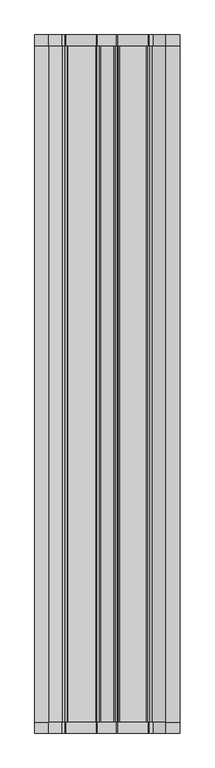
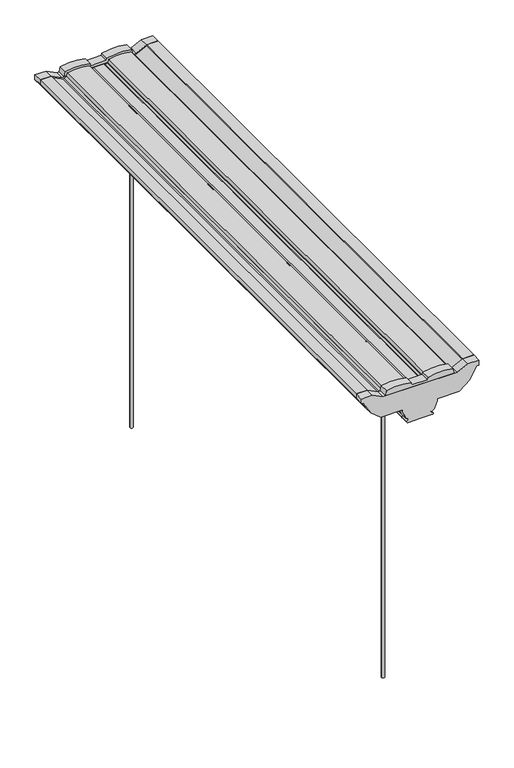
"""IFC4 building model written with IfcOpenShell, lengths in millimetres: light fixture geometry, OD74 (E) MSL : E - MSL 4000LM  35K 80CRI."""

import ifcopenshell
import ifcopenshell.guid

model = None  # the IFC model being written
_history = None  # IfcOwnerHistory: only IFC2X3 demands one
_inside = {}  # id of a spatial element -> (the spatial element, [elements in it])
_under = {}  # id of a project, library or spatial element -> (it, [spatial elements below it])
_declared = {}  # id of a project -> (the project, [libraries it declares])
_typed = {}  # id of a type object -> (the type object, [elements of that type])
_made_of = {}  # id of a material, layer set ... -> (it, [elements and type objects made of it])


def new_model(schema):
    """Start an empty IFC model of exactly this schema.

    Asked for "IFC4X3", IfcOpenShell would pick the latest addendum, in which some entities
    have other attributes; the version numbers below select the first issue.
    IFC2X3 requires an IfcOwnerHistory on every rooted entity: one is made here for all.
    """
    global model, _history
    if schema == "IFC4X3":
        model = ifcopenshell.file(schema_version=(4, 3, 0, 0))
    else:
        model = ifcopenshell.file(schema=schema)
    _inside.clear()
    _under.clear()
    _declared.clear()
    _typed.clear()
    _made_of.clear()
    _history = None
    if model.schema == "IFC2X3":
        org = make("IfcOrganization", Name="unknown")
        user = make(
            "IfcPersonAndOrganization",
            ThePerson=make("IfcPerson", FamilyName="unknown"),
            TheOrganization=org,
        )
        app = make(
            "IfcApplication",
            ApplicationDeveloper=org,
            Version="unknown",
            ApplicationFullName="unknown",
            ApplicationIdentifier="unknown",
        )
        _history = make(
            "IfcOwnerHistory",
            OwningUser=user,
            OwningApplication=app,
            ChangeAction="ADDED",
            CreationDate=0,
        )
    return model


def make(cls, **values):
    """One entity of the class cls with the attributes given. An attribute that is None is left unset."""
    return model.create_entity(
        cls, **{name: value for name, value in values.items() if value is not None}
    )


def rooted(cls, **values):
    """An entity with a GlobalId (a new one), such as an element, a storey or a relation."""
    return make(cls, GlobalId=ifcopenshell.guid.new(), OwnerHistory=_history, **values)


def si_unit(unit_type, name, prefix=None):
    """IfcSIUnit, for example si_unit("LENGTHUNIT", "METRE", prefix="MILLI")."""
    return make("IfcSIUnit", UnitType=unit_type, Prefix=prefix, Name=name)


def assignment(units):
    """IfcUnitAssignment: the units of a project."""
    return None if units is None else make("IfcUnitAssignment", Units=units)


def point(xyz):
    """IfcCartesianPoint."""
    return None if xyz is None else make("IfcCartesianPoint", Coordinates=xyz)


def direction(xyz):
    """IfcDirection."""
    return None if xyz is None else make("IfcDirection", DirectionRatios=xyz)


def frame(location, z_axis=None, x_axis=None):
    """IfcAxis2Placement3D, a coordinate frame: its origin and axes. An axis left out is left unset."""
    return make(
        "IfcAxis2Placement3D",
        Location=point(location),
        Axis=direction(z_axis),
        RefDirection=direction(x_axis),
    )


def frame_2d(location, x_axis=None):
    """IfcAxis2Placement2D, a coordinate frame in the plane: its origin and x axis."""
    return make(
        "IfcAxis2Placement2D", Location=point(location), RefDirection=direction(x_axis)
    )


def origin():
    """The frame at (0, 0, 0) with its axes left unset."""
    return frame((0.0, 0.0, 0.0))


def origin_with_axes():
    """The frame at (0, 0, 0) with the z axis (0, 0, 1) and the x axis (1, 0, 0) written out."""
    return frame((0.0, 0.0, 0.0), z_axis=(0.0, 0.0, 1.0), x_axis=(1.0, 0.0, 0.0))


def place(relative_to, where):
    """IfcLocalPlacement: puts the frame where relative to a parent placement (None: the world)."""
    return make(
        "IfcLocalPlacement", PlacementRelTo=relative_to, RelativePlacement=where
    )


def context(
    kind, dimensions, precision=None, world=None, true_north=None, identifier=None
):
    """IfcGeometricRepresentationContext, for example the 3D "Model" context."""
    return make(
        "IfcGeometricRepresentationContext",
        ContextIdentifier=identifier,
        ContextType=kind,
        CoordinateSpaceDimension=dimensions,
        Precision=precision,
        WorldCoordinateSystem=world,
        TrueNorth=true_north,
    )


def project(units=None, contexts=None):
    """IfcProject with its units and contexts."""
    return rooted(
        "IfcProject",
        Name="project",
        RepresentationContexts=contexts,
        UnitsInContext=assignment(units),
    )


def spatial(cls, under=None, at=None, **own):
    """A site, building, storey or space (cls), placed at a placement, below another one or the project."""
    s = rooted(cls, ObjectPlacement=at, **own)
    if under is not None:
        _under.setdefault(under.id(), (under, []))[1].append(s)
    return s


def polyline(points):
    """IfcPolyline through the points."""
    return make("IfcPolyline", Points=[point(p) for p in points])


def circle_curve(where, radius):
    """IfcCircle in the frame where."""
    return make("IfcCircle", Position=where, Radius=radius)


def trimmed(basis, trim1, trim2, sense, master):
    """IfcTrimmedCurve: the piece of a basis curve between two trims."""
    return make(
        "IfcTrimmedCurve",
        BasisCurve=basis,
        Trim1=trim1,
        Trim2=trim2,
        SenseAgreement=sense,
        MasterRepresentation=master,
    )


def segment(curve, same_sense, transition):
    """IfcCompositeCurveSegment."""
    return make(
        "IfcCompositeCurveSegment",
        Transition=transition,
        SameSense=same_sense,
        ParentCurve=curve,
    )


def composite_curve(segments, self_intersect=None):
    """IfcCompositeCurve: segments joined end to end."""
    return make("IfcCompositeCurve", Segments=segments, SelfIntersect=self_intersect)


def outline(outer, holes=None, kind="AREA"):
    """IfcArbitraryClosedProfileDef: a profile drawn as a closed curve; with holes, ...WithVoids."""
    if holes is None:
        return make("IfcArbitraryClosedProfileDef", ProfileType=kind, OuterCurve=outer)
    return make(
        "IfcArbitraryProfileDefWithVoids",
        ProfileType=kind,
        OuterCurve=outer,
        InnerCurves=holes,
    )


def extrude(swept, where, along, depth):
    """IfcExtrudedAreaSolid: the profile swept, set in the frame where, extruded along a direction by depth."""
    return make(
        "IfcExtrudedAreaSolid",
        SweptArea=swept,
        Position=where,
        ExtrudedDirection=direction(along),
        Depth=depth,
    )


def shape(context_of_items, identifier, shape_type, items):
    """IfcShapeRepresentation: the items that make up one representation, for example the "Body"."""
    return make(
        "IfcShapeRepresentation",
        ContextOfItems=context_of_items,
        RepresentationIdentifier=identifier,
        RepresentationType=shape_type,
        Items=items,
    )


def source(mapping_origin, context_of_items, identifier, shape_type, items):
    """IfcRepresentationMap: a shape defined once, which mapped items show again and again."""
    return make(
        "IfcRepresentationMap",
        MappingOrigin=mapping_origin,
        MappedRepresentation=shape(context_of_items, identifier, shape_type, items),
    )


def transform(
    local_origin,
    x_axis=None,
    y_axis=None,
    z_axis=None,
    scale=None,
    scale2=None,
    scale3=None,
    uniform=True,
):
    """IfcCartesianTransformationOperator3D, or its non-uniform kind. x_axis, y_axis, z_axis: its Axis1, 2, 3."""
    if uniform:
        return make(
            "IfcCartesianTransformationOperator3D",
            Axis1=direction(x_axis),
            Axis2=direction(y_axis),
            LocalOrigin=point(local_origin),
            Scale=scale,
            Axis3=direction(z_axis),
        )
    return make(
        "IfcCartesianTransformationOperator3DnonUniform",
        Axis1=direction(x_axis),
        Axis2=direction(y_axis),
        LocalOrigin=point(local_origin),
        Scale=scale,
        Axis3=direction(z_axis),
        Scale2=scale2,
        Scale3=scale3,
    )


def mapped(mapping_source, mapping_target):
    """IfcMappedItem: shows the shape of a source again, moved by a transform."""
    return make(
        "IfcMappedItem", MappingSource=mapping_source, MappingTarget=mapping_target
    )


def made_of(thing, what):
    """Note that an element or type object is made of a material, layer set ...; save() writes the relation."""
    if what is not None:
        _made_of.setdefault(what.id(), (what, []))[1].append(thing)
    return thing


def element(
    cls,
    number,
    at=None,
    inside=None,
    cuts=None,
    type_object=None,
    material=None,
    context=None,
    identifier="Body",
    shape_type=None,
    held_by="IfcProductDefinitionShape",
    body=None,
    shapes=None,
    **own,
):
    """One element of the class cls, such as IfcWall. Its Tag is "e" and its number.

    at: its placement. inside: the storey or other place that contains it. cuts: it is an
    opening in that element (IfcRelVoidsElement). A single representation is given by context,
    identifier, shape_type and body (its items); several are given by shapes. held_by: the class
    of the entity that holds the representations. save() writes the other relations.
    """
    e = rooted(cls, Tag="e%d" % number, ObjectPlacement=at, **own)
    if body is not None:
        shapes = [shape(context, identifier, shape_type, body)]
    if shapes is not None:
        e.Representation = make(held_by, Representations=shapes)
    if inside is not None:
        _inside.setdefault(inside.id(), (inside, []))[1].append(e)
    if cuts is not None:
        rooted(
            "IfcRelVoidsElement", RelatingBuildingElement=cuts, RelatedOpeningElement=e
        )
    if type_object is not None:
        _typed.setdefault(type_object.id(), (type_object, []))[1].append(e)
    return made_of(e, material)


def aggregate(whole, parts):
    """IfcRelAggregates: a whole, such as a stair, and the parts it consists of."""
    return rooted("IfcRelAggregates", RelatingObject=whole, RelatedObjects=parts)


def save(model, path):
    """Write the relations noted so far, then the file.

    IfcRelAggregates (storeys below a building ...), IfcRelContainedInSpatialStructure (elements
    in a storey), IfcRelDefinesByType, IfcRelAssociatesMaterial and IfcRelDeclares: one each for
    every whole, place, type object, material and project.
    """
    for whole, parts in _under.values():
        aggregate(whole, parts)
    for where, things in _inside.values():
        rooted(
            "IfcRelContainedInSpatialStructure",
            RelatedElements=things,
            RelatingStructure=where,
        )
    for kind, things in _typed.values():
        rooted("IfcRelDefinesByType", RelatedObjects=things, RelatingType=kind)
    for what, things in _made_of.values():
        rooted("IfcRelAssociatesMaterial", RelatedObjects=things, RelatingMaterial=what)
    for by, libraries in _declared.values():
        rooted("IfcRelDeclares", RelatingContext=by, RelatedDefinitions=libraries)
    model.write(path)


def light_fixture_3eaf82a2(model_context):
    return source(origin(), model_context, "Body", "SweptSolid", [
        extrude(outline(composite_curve([segment(polyline([(761.9410532, 266.3273965), (752.0266684, 266.3273965)]), True, "CONTINUOUS"), segment(trimmed(circle_curve(frame_2d((752.0266684, 268.0800287)), 1.7526322), [point((752.0266684, 266.3273965))], [point((750.2740363, 268.0800287))], False, "CARTESIAN"), True, "CONTINUOUS"), segment(polyline([(750.2740363, 268.0800287), (750.2740363, 271.2106766), (723.6862226, 286.5611579), (705.7817948, 308.671285), (705.7817948, 356.4382625), (700.8246024, 356.4382625), (684.387948, 362.4207155), (681.1207414, 367.649339)]), True, "CONTINUOUS"), segment(trimmed(circle_curve(frame_2d((679.9290348, 366.9046781)), 1.4052347), [point((681.1207414, 367.649339))], [point((678.9181936, 367.8808361))], True, "CARTESIAN"), True, "CONTINUOUS"), segment(polyline([(678.9181936, 367.8808361), (675.8046273, 364.8741001)]), True, "CONTINUOUS"), segment(trimmed(circle_curve(frame_2d((674.9816032, 366.5709512)), 1.8859142), [point((675.8046273, 364.8741001))], [point((673.1, 366.6983942))], False, "CARTESIAN"), True, "CONTINUOUS"), segment(polyline([(673.1, 366.6983942), (673.1, 393.3273965), (673.1, 419.9563988)]), True, "CONTINUOUS"), segment(trimmed(circle_curve(frame_2d((674.9816032, 420.0838418)), 1.8859142), [point((673.1, 419.9563988))], [point((675.8046273, 421.780693))], False, "CARTESIAN"), True, "CONTINUOUS"), segment(polyline([(675.8046273, 421.780693), (678.9181936, 418.7739569)]), True, "CONTINUOUS"), segment(trimmed(circle_curve(frame_2d((679.9290348, 419.750115)), 1.4052347), [point((678.9181936, 418.7739569))], [point((681.1207414, 419.0054541))], True, "CARTESIAN"), True, "CONTINUOUS"), segment(polyline([(681.1207414, 419.0054541), (684.387948, 424.2340775), (700.8246024, 430.2165305), (705.7817948, 430.2165305), (705.7817948, 477.9835081), (723.6862226, 500.0936351), (750.2740363, 515.4441164), (750.2740363, 518.5747644)]), True, "CONTINUOUS"), segment(trimmed(circle_curve(frame_2d((752.0266684, 518.5747644)), 1.7526322), [point((750.2740363, 518.5747644))], [point((752.0266684, 520.3273965))], False, "CARTESIAN"), True, "CONTINUOUS"), segment(polyline([(752.0266684, 520.3273965), (761.9410532, 520.3273965), (761.9410532, 496.1139953), (750.7774156, 473.7174726), (750.7774156, 312.9373204), (761.9410532, 290.5407977), (761.9410532, 266.3273965)]), True, "CONTINUOUS")], self_intersect=False)), frame((0.0, 592.4164127, 0.0), z_axis=(0.0, 1.0, 0.0), x_axis=(0.0, 0.0, 1.0)), (0.0, 0.0, 1.0), 19.05),
        extrude(outline(composite_curve([segment(polyline([(750.7774156, 318.3729809), (750.7774156, 466.9060616), (761.3250814, 464.0798231)]), True, "CONTINUOUS"), segment(trimmed(circle_curve(frame_2d((653.4963739, 437.3502514)), 111.0923046), [point((761.3250814, 464.0798231))], [point((761.3250814, 410.6206797))], False, "CARTESIAN"), True, "CONTINUOUS"), segment(polyline([(761.3250814, 410.6206797), (756.360458, 409.2904129), (756.360458, 375.8941276), (761.1487382, 374.6111118)]), True, "CONTINUOUS"), segment(trimmed(circle_curve(frame_2d((653.3200307, 347.8815401)), 111.0923046), [point((761.1487382, 374.6111118))], [point((761.1487382, 321.1519684))], False, "CARTESIAN"), True, "CONTINUOUS"), segment(polyline([(761.1487382, 321.1519684), (750.7774156, 318.3729809)]), True, "CONTINUOUS")], self_intersect=False)), frame((0.0, 592.4164127, 0.0), z_axis=(0.0, 1.0, 0.0), x_axis=(0.0, 0.0, 1.0)), (0.0, 0.0, 1.0), 19.05),
        extrude(outline(composite_curve([segment(polyline([(757.4128847, 414.1881344), (750.7774156, 412.4101658), (750.7774156, 414.0536667), (756.0924002, 415.4778125)]), True, "CONTINUOUS"), segment(trimmed(circle_curve(frame_2d((660.9949256, 438.0853777)), 97.7477962), [point((756.0924002, 415.4778125))], [point((756.0924002, 460.6929428))], True, "CARTESIAN"), True, "CONTINUOUS"), segment(polyline([(756.0924002, 460.6929428), (750.7774156, 462.1170886), (750.7774156, 463.7605896), (757.4128847, 461.982621)]), True, "CONTINUOUS"), segment(trimmed(circle_curve(frame_2d((660.9949256, 438.0853777)), 99.3352962), [point((757.4128847, 461.982621))], [point((757.4128847, 414.1881344))], False, "CARTESIAN"), True, "CONTINUOUS")], self_intersect=False)), frame((0.0, -588.6835873, 0.0), z_axis=(0.0, 1.0, 0.0), x_axis=(0.0, 0.0, 1.0)), (0.0, 0.0, 1.0), 1181.1),
        extrude(outline(composite_curve([segment(trimmed(circle_curve(frame_2d((660.9949256, 348.5694154)), 99.3352962), [point((757.4128847, 372.4666587))], [point((757.4128847, 324.6721721))], False, "CARTESIAN"), True, "CONTINUOUS"), segment(polyline([(757.4128847, 324.6721721), (750.7774156, 322.8942035), (750.7774156, 324.5377044), (756.0924002, 325.9618502)]), True, "CONTINUOUS"), segment(trimmed(circle_curve(frame_2d((660.9949256, 348.5694154)), 97.7477962), [point((756.0924002, 325.9618502))], [point((756.0924002, 371.1769805))], True, "CARTESIAN"), True, "CONTINUOUS"), segment(polyline([(756.0924002, 371.1769805), (750.7774156, 372.6011263), (750.7774156, 374.2446273), (757.4128847, 372.4666587)]), True, "CONTINUOUS")], self_intersect=False)), frame((0.0, -588.6835873, 0.0), z_axis=(0.0, 1.0, 0.0), x_axis=(0.0, 0.0, 1.0)), (0.0, 0.0, 1.0), 1181.1),
        extrude(outline(composite_curve([segment(polyline([(761.9410532, 266.3273965), (752.0266684, 266.3273965)]), True, "CONTINUOUS"), segment(trimmed(circle_curve(frame_2d((752.0266684, 268.0800287)), 1.7526322), [point((752.0266684, 266.3273965))], [point((750.2740363, 268.0800287))], False, "CARTESIAN"), True, "CONTINUOUS"), segment(polyline([(750.2740363, 268.0800287), (750.2740363, 271.2106766), (723.6862226, 286.5611579), (705.7817948, 308.671285), (705.7817948, 356.4382625), (700.8246024, 356.4382625), (684.387948, 362.4207155), (681.1207414, 367.649339)]), True, "CONTINUOUS"), segment(trimmed(circle_curve(frame_2d((679.9290348, 366.9046781)), 1.4052347), [point((681.1207414, 367.649339))], [point((678.9181936, 367.8808361))], True, "CARTESIAN"), True, "CONTINUOUS"), segment(polyline([(678.9181936, 367.8808361), (675.8046273, 364.8741001)]), True, "CONTINUOUS"), segment(trimmed(circle_curve(frame_2d((674.9816032, 366.5709512)), 1.8859142), [point((675.8046273, 364.8741001))], [point((673.1, 366.6983942))], False, "CARTESIAN"), True, "CONTINUOUS"), segment(polyline([(673.1, 366.6983942), (673.1, 393.3273965), (673.1, 419.9563988)]), True, "CONTINUOUS"), segment(trimmed(circle_curve(frame_2d((674.9816032, 420.0838418)), 1.8859142), [point((673.1, 419.9563988))], [point((675.8046273, 421.780693))], False, "CARTESIAN"), True, "CONTINUOUS"), segment(polyline([(675.8046273, 421.780693), (678.9181936, 418.7739569)]), True, "CONTINUOUS"), segment(trimmed(circle_curve(frame_2d((679.9290348, 419.750115)), 1.4052347), [point((678.9181936, 418.7739569))], [point((681.1207414, 419.0054541))], True, "CARTESIAN"), True, "CONTINUOUS"), segment(polyline([(681.1207414, 419.0054541), (684.387948, 424.2340775), (700.8246024, 430.2165305), (705.7817948, 430.2165305), (705.7817948, 477.9835081), (723.6862226, 500.0936351), (750.2740363, 515.4441164), (750.2740363, 518.5747644)]), True, "CONTINUOUS"), segment(trimmed(circle_curve(frame_2d((752.0266684, 518.5747644)), 1.7526322), [point((750.2740363, 518.5747644))], [point((752.0266684, 520.3273965))], False, "CARTESIAN"), True, "CONTINUOUS"), segment(polyline([(752.0266684, 520.3273965), (761.9410532, 520.3273965), (761.9410532, 496.1139953), (759.462457, 496.1139953), (747.2995637, 471.7127628), (747.2995637, 467.72089), (750.7774156, 464.243038), (750.7774156, 411.1339673), (747.2995637, 407.6561154), (750.7774156, 404.1782634), (750.7774156, 382.4765296), (747.2995637, 378.9986777), (750.7774156, 375.5208257), (750.7774156, 322.411755), (747.2995637, 318.9339031), (747.2995637, 314.9420303), (759.462457, 290.5407977), (761.9410532, 290.5407977), (761.9410532, 266.3273965)]), True, "CONTINUOUS")], self_intersect=False)), frame((0.0, -588.6835873, 0.0), z_axis=(0.0, 1.0, 0.0), x_axis=(0.0, 0.0, 1.0)), (0.0, 0.0, 1.0), 1181.1),
        extrude(outline(composite_curve([segment(polyline([(761.9410532, 266.3273965), (752.0266684, 266.3273965)]), True, "CONTINUOUS"), segment(trimmed(circle_curve(frame_2d((752.0266684, 268.0800287)), 1.7526322), [point((752.0266684, 266.3273965))], [point((750.2740363, 268.0800287))], False, "CARTESIAN"), True, "CONTINUOUS"), segment(polyline([(750.2740363, 268.0800287), (750.2740363, 271.2106766), (723.6862226, 286.5611579), (705.7817948, 308.671285), (705.7817948, 356.4382625), (700.8246024, 356.4382625), (684.387948, 362.4207155), (681.1207414, 367.649339)]), True, "CONTINUOUS"), segment(trimmed(circle_curve(frame_2d((679.9290348, 366.9046781)), 1.4052347), [point((681.1207414, 367.649339))], [point((678.9181936, 367.8808361))], True, "CARTESIAN"), True, "CONTINUOUS"), segment(polyline([(678.9181936, 367.8808361), (675.8046273, 364.8741001)]), True, "CONTINUOUS"), segment(trimmed(circle_curve(frame_2d((674.9816032, 366.5709512)), 1.8859142), [point((675.8046273, 364.8741001))], [point((673.1, 366.6983942))], False, "CARTESIAN"), True, "CONTINUOUS"), segment(polyline([(673.1, 366.6983942), (673.1, 393.3273965), (673.1, 419.9563988)]), True, "CONTINUOUS"), segment(trimmed(circle_curve(frame_2d((674.9816032, 420.0838418)), 1.8859142), [point((673.1, 419.9563988))], [point((675.8046273, 421.780693))], False, "CARTESIAN"), True, "CONTINUOUS"), segment(polyline([(675.8046273, 421.780693), (678.9181936, 418.7739569)]), True, "CONTINUOUS"), segment(trimmed(circle_curve(frame_2d((679.9290348, 419.750115)), 1.4052347), [point((678.9181936, 418.7739569))], [point((681.1207414, 419.0054541))], True, "CARTESIAN"), True, "CONTINUOUS"), segment(polyline([(681.1207414, 419.0054541), (684.387948, 424.2340775), (700.8246024, 430.2165305), (705.7817948, 430.2165305), (705.7817948, 477.9835081), (723.6862226, 500.0936351), (750.2740363, 515.4441164), (750.2740363, 518.5747644)]), True, "CONTINUOUS"), segment(trimmed(circle_curve(frame_2d((752.0266684, 518.5747644)), 1.7526322), [point((750.2740363, 518.5747644))], [point((752.0266684, 520.3273965))], False, "CARTESIAN"), True, "CONTINUOUS"), segment(polyline([(752.0266684, 520.3273965), (761.9410532, 520.3273965), (761.9410532, 496.1139953), (750.7774156, 473.7174726), (750.7774156, 312.9373204), (761.9410532, 290.5407977), (761.9410532, 266.3273965)]), True, "CONTINUOUS")], self_intersect=False)), frame((0.0, -607.7335873, 0.0), z_axis=(0.0, 1.0, 0.0), x_axis=(0.0, 0.0, 1.0)), (0.0, 0.0, 1.0), 19.05),
        extrude(outline(composite_curve([segment(polyline([(750.7774156, 318.3729809), (750.7774156, 466.9060616), (761.3250814, 464.0798231)]), True, "CONTINUOUS"), segment(trimmed(circle_curve(frame_2d((653.4963739, 437.3502514)), 111.0923046), [point((761.3250814, 464.0798231))], [point((761.3250814, 410.6206797))], False, "CARTESIAN"), True, "CONTINUOUS"), segment(polyline([(761.3250814, 410.6206797), (756.360458, 409.2904129), (756.360458, 375.8941276), (761.1487382, 374.6111118)]), True, "CONTINUOUS"), segment(trimmed(circle_curve(frame_2d((653.3200307, 347.8815401)), 111.0923046), [point((761.1487382, 374.6111118))], [point((761.1487382, 321.1519684))], False, "CARTESIAN"), True, "CONTINUOUS"), segment(polyline([(761.1487382, 321.1519684), (750.7774156, 318.3729809)]), True, "CONTINUOUS")], self_intersect=False)), frame((0.0, -607.7335873, 0.0), z_axis=(0.0, 1.0, 0.0), x_axis=(0.0, 0.0, 1.0)), (0.0, 0.0, 1.0), 19.05),
        extrude(outline(composite_curve([segment(trimmed(circle_curve(frame_2d((392.9311057, 469.9)), 3.175), [point((389.7561057, 469.9))], [point((396.1061057, 469.9))], False, "CARTESIAN"), True, "CONTINUOUS"), segment(trimmed(circle_curve(frame_2d((392.9311057, 469.9)), 3.175), [point((396.1061057, 469.9))], [point((389.7561057, 469.9))], False, "CARTESIAN"), True, "CONTINUOUS")], self_intersect=False)), origin_with_axes(), (0.0, 0.0, 1.0), 676.088563),
        extrude(outline(composite_curve([segment(trimmed(circle_curve(frame_2d((392.9311057, -469.9)), 3.175), [point((389.7561057, -469.9))], [point((396.1061057, -469.9))], False, "CARTESIAN"), True, "CONTINUOUS"), segment(trimmed(circle_curve(frame_2d((392.9311057, -469.9)), 3.175), [point((396.1061057, -469.9))], [point((389.7561057, -469.9))], False, "CARTESIAN"), True, "CONTINUOUS")], self_intersect=False)), origin_with_axes(), (0.0, 0.0, 1.0), 676.088563),
    ])


if __name__ == "__main__":
    model = new_model("IFC4")
    model_context = context("Model", 3, world=origin())
    ifc_project = project(units=[si_unit("LENGTHUNIT", "METRE", prefix="MILLI")], contexts=[model_context])
    site = spatial("IfcSite", under=ifc_project)
    building = spatial("IfcBuilding", under=site)
    placement = place(None, origin())
    light_fixture_shape = light_fixture_3eaf82a2(model_context)
    element("IfcLightFixture", 1, ObjectType="OD74 (E) MSL : E - MSL 4000LM  35K 80CRI", at=placement, inside=building, context=model_context, shape_type="MappedRepresentation", body=[
        mapped(light_fixture_shape, transform((0.0, 0.0, 0.0), x_axis=(1.0, 0.0, 0.0), y_axis=(0.0, 1.0, 0.0), z_axis=(0.0, 0.0, 1.0))),
    ])
    save(model, "model.ifc")
